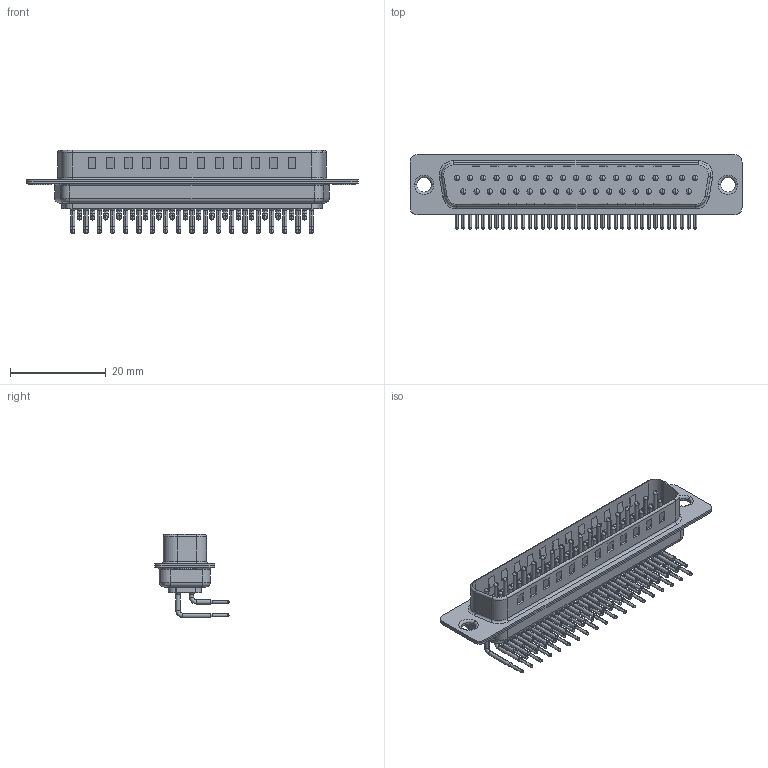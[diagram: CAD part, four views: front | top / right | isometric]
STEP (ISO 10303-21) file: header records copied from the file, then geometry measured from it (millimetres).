
FILE_DESCRIPTION (( 'STEP AP203' ), '1' );
FILE_NAME ('773-E37-113R001.STEP', '2026-04-28T15:16:05', ( '' ), ( '' ), 'SwSTEP 2.0', 'SolidWorks 2020', '' );
FILE_SCHEMA (( 'CONFIG_CONTROL_DESIGN' ));
Products named in the file (1): 773-E37-113R001
Bounding box: 69.4 x 15.5 x 17.39 mm (x, y, z)
Volume: 3914.6 mm3; surface area: 11055.9 mm2
Topology: 41 solids, 41 shells, 4497 faces, 12298 edges, 7849 vertices
Faces by surface type: plane 2652, cylinder 1431, sphere 152, cone 148, torus 104, bspline 10
Entity records: 140063 total; most frequent: CARTESIAN_POINT 24580, ORIENTED_EDGE 24140, DIRECTION 24091, EDGE_CURVE 12070, LINE 9001, VECTOR 9001, VERTEX_POINT 7773, AXIS2_PLACEMENT_3D 7545
